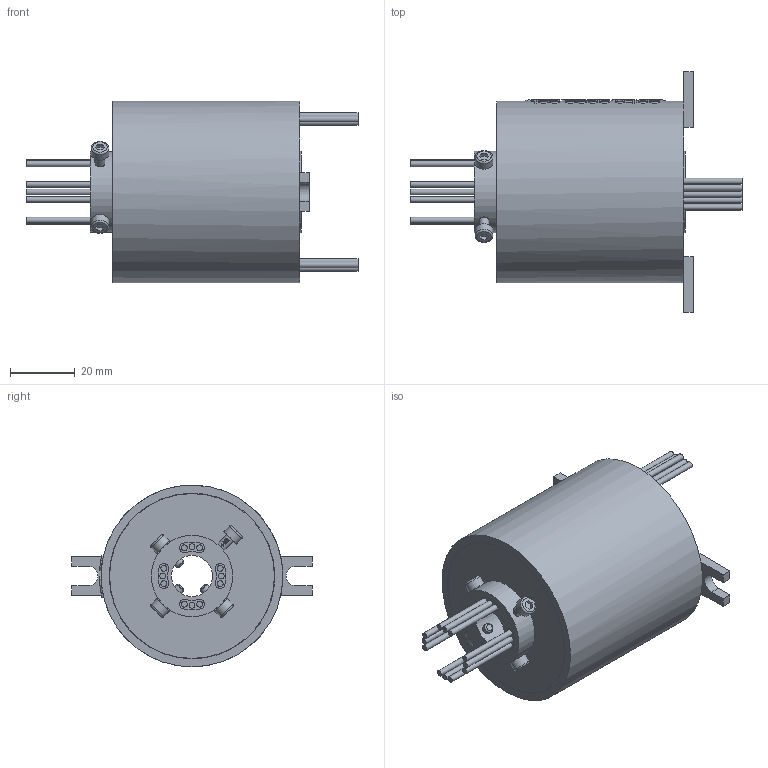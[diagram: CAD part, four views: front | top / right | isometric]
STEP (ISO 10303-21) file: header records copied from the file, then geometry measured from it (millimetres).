
FILE_DESCRIPTION(/* description */ (''),/* implementation_level */ '2;1');
FILE_NAME(/* name */ 'YD1256-1210-3D模型.stp',/* time_stamp */ '2025-08-27T17:42:45+08:00',/* author */ (''),/* organization */ (''),/* preprocessor_version */ 'ST-DEVELOPER v16.7',/* originating_system */ 'SIEMENS PLM Software NX 12.0',/* authorisation */ '');
FILE_SCHEMA (('AUTOMOTIVE_DESIGN { 1 0 10303 214 3 1 1 1 }'));
Length unit declared in the file: millimetre
Products named in the file (1): Admi27B8B179mq7k
Bounding box: 102.3 x 74 x 56 mm (x, y, z)
Volume: 139334.5 mm3; surface area: 23336.9 mm2
Topology: 1 solids, 1 shells, 952 faces, 2565 edges, 1702 vertices
Faces by surface type: extrusion 479, plane 330, cylinder 98, bspline 33, cone 8, torus 4
Full cylindrical faces by diameter (mm): 1.8 x24, 2.6 x1, 3 x7, 5.5 x4, 5.9 x4, 12.7 x1, 21 x1, 25 x2, 50.8 x2, 51 x2, 56 x1
Entity records: 37787 total; most frequent: CARTESIAN_POINT 17766, ORIENTED_EDGE 4916, EDGE_CURVE 2458, DIRECTION 2319, B_SPLINE_CURVE_WITH_KNOTS 2303, VERTEX_POINT 1667, EDGE_LOOP 1117, ADVANCED_FACE 952
